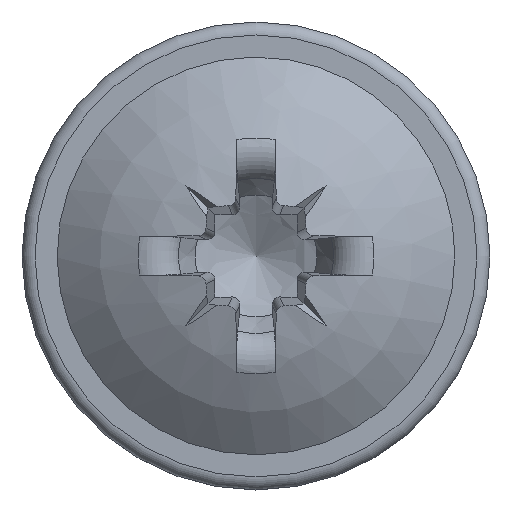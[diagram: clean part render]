
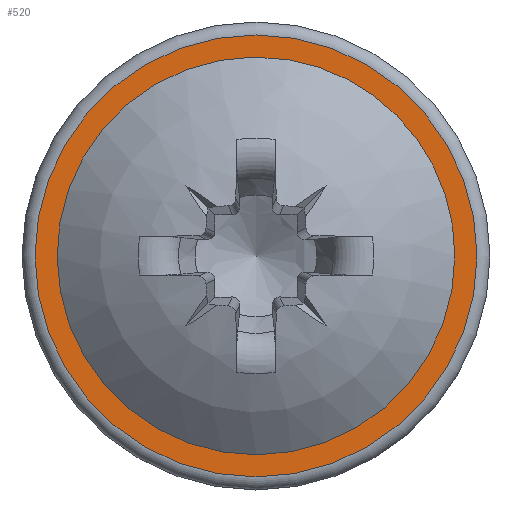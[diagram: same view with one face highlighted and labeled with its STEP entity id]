
A CAD part, top view. The second image highlights one B-rep face of the part: STEP entity #520.
In plain terms, the highlighted planar face has unit normal (0, 0, 1).
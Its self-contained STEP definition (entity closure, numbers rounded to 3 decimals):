
#156=PLANE('',#2777);
#494=FACE_BOUND('',#872,.T.);
#495=FACE_BOUND('',#873,.T.);
#520=ADVANCED_FACE('',(#494,#495),#156,.F.);
#872=EDGE_LOOP('',(#1202));
#873=EDGE_LOOP('',(#1203));
#1044=CIRCLE('',#2735,3.825);
#1079=CIRCLE('',#2776,4.25);
#1202=ORIENTED_EDGE('',*,*,#2233,.T.);
#1203=ORIENTED_EDGE('',*,*,#2182,.F.);
#1942=VERTEX_POINT('',#5888);
#1991=VERTEX_POINT('',#6198);
#2182=EDGE_CURVE('',#1942,#1942,#1044,.T.);
#2233=EDGE_CURVE('',#1991,#1991,#1079,.T.);
#2735=AXIS2_PLACEMENT_3D('',#5887,#2846,#2847);
#2776=AXIS2_PLACEMENT_3D('',#6197,#2929,#2930);
#2777=AXIS2_PLACEMENT_3D('',#6199,#2931,#2932);
#2846=DIRECTION('',(0.,0.,1.));
#2847=DIRECTION('',(1.,0.,0.));
#2929=DIRECTION('',(0.,0.,1.));
#2930=DIRECTION('',(-1.,0.,0.));
#2931=DIRECTION('',(0.,0.,-1.));
#2932=DIRECTION('',(-1.,0.,0.));
#5887=CARTESIAN_POINT('',(0.,0.,1.));
#5888=CARTESIAN_POINT('',(3.825,0.,1.));
#6197=CARTESIAN_POINT('',(0.,0.,1.));
#6198=CARTESIAN_POINT('',(-4.25,0.,1.));
#6199=CARTESIAN_POINT('',(0.,4.5,1.));
